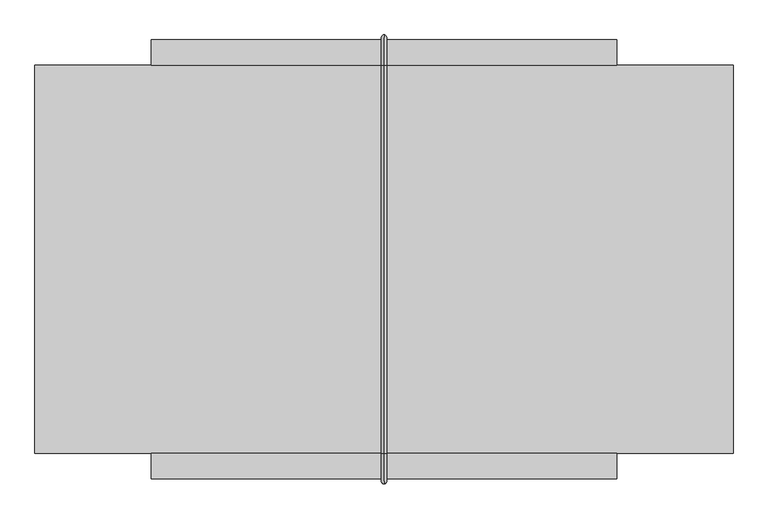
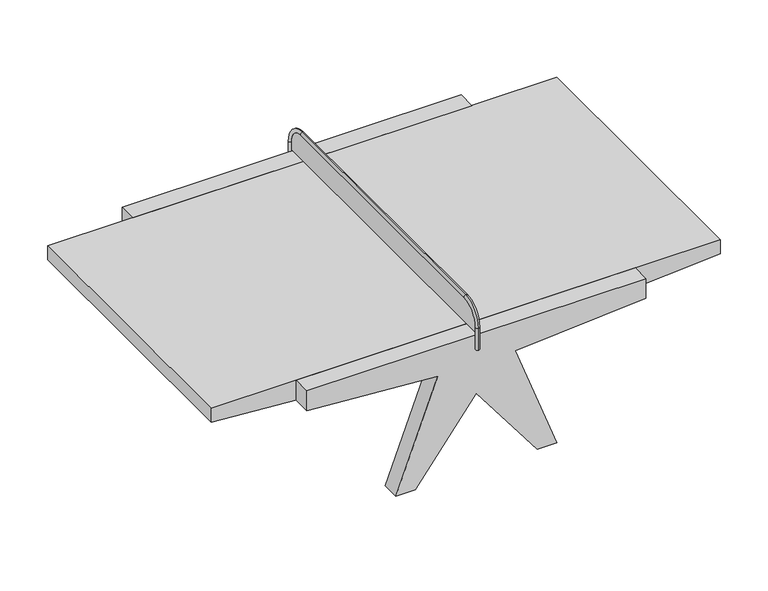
"""IFC4 building model written with IfcOpenShell, lengths in millimetres: furniture geometry, Mesa ping pong : Mesa ping pong."""

from ifc_helpers import new_model, si_unit, point, frame, frame_2d, origin, place, context, project, spatial, polyline, circle_curve, ellipse_curve, trimmed, segment, composite_curve, outline, extrude, source, transform, mapped, element, save
from ifc_brep_helpers import plane_surface, cylinder_surface, revolved_surface, advanced_brep


def furniture_a8138b70(model_context):
    return source(origin(), model_context, "Body", "SolidModel", [
        extrude(outline(composite_curve([segment(polyline([(-1630.0, 780.0), (-1630.0, 820.0)]), True, "CONTINUOUS"), segment(trimmed(circle_curve(frame_2d((-1530.0, 820.0)), 100.0), [point((-1630.0, 820.0))], [point((-1530.0, 920.0))], False, "CARTESIAN"), True, "CONTINUOUS"), segment(polyline([(-1530.0, 920.0), (0.0, 920.0)]), True, "CONTINUOUS"), segment(trimmed(circle_curve(frame_2d((0.0, 820.0)), 100.0), [point((0.0, 920.0))], [point((100.0, 820.0))], False, "CARTESIAN"), True, "CONTINUOUS"), segment(polyline([(100.0, 820.0), (100.0, 780.0), (-1630.0, 780.0)]), True, "CONTINUOUS")], self_intersect=False)), frame((43.7003264, 0.0, 0.0), z_axis=(1.0, 0.0, 0.0), x_axis=(0.0, 1.0, 0.0)), (0.0, 0.0, 1.0), 2.0),
        advanced_brep(
        [(44.7003264, 120.0, 690.0), (44.7003264, 100.0, 690.0), (44.7003264, 120.0, 820.0), (44.7003264, 100.0, 820.0), (44.7003264, 0.0, 920.0), (44.7003264, 0.0, 940.0), (44.7003264, -1530.0, 940.0), (44.7003264, -1530.0, 920.0), (44.7003264, -1630.0, 820.0), (44.7003264, -1650.0, 820.0), (44.7003264, -1650.0, 695.0), (44.7003264, -1630.0, 695.0)],
        [
            (0, 1, circle_curve(frame((44.7003264, 110.0, 690.0), z_axis=(0.0, 0.0, -1.0), x_axis=(0.0, -1.0, 0.0)), 10.0)),
            (1, 0, circle_curve(frame((44.7003264, 110.0, 690.0), z_axis=(0.0, 0.0, -1.0), x_axis=(0.0, -1.0, 0.0)), 10.0)),
            (0, 2),
            (2, 3, circle_curve(frame((44.7003264, 110.0, 820.0), z_axis=(0.0, 0.0, -1.0), x_axis=(0.0, -1.0, 0.0)), 10.0)),
            (3, 1),
            (3, 2, circle_curve(frame((44.7003264, 110.0, 820.0), z_axis=(0.0, 0.0, -1.0), x_axis=(0.0, -1.0, 0.0)), 10.0)),
            (4, 3, circle_curve(frame((44.7003264, 0.0, 820.0), z_axis=(-1.0, 0.0, 0.0), x_axis=(0.0, 1.0, 0.0)), 100.0)),
            (2, 5, circle_curve(frame((44.7003264, 0.0, 820.0), z_axis=(1.0, 0.0, 0.0), x_axis=(0.0, 1.0, 0.0)), 120.0)),
            (5, 4, circle_curve(frame((44.7003264, 0.0, 930.0), z_axis=(0.0, 1.0, 0.0), x_axis=(0.0, 0.0, -1.0)), 10.0)),
            (4, 5, circle_curve(frame((44.7003264, 0.0, 930.0), z_axis=(0.0, 1.0, 0.0), x_axis=(0.0, 0.0, -1.0)), 10.0)),
            (5, 6),
            (6, 7, circle_curve(frame((44.7003264, -1530.0, 930.0), z_axis=(0.0, 1.0, 0.0), x_axis=(0.0, 0.0, -1.0)), 10.0)),
            (7, 4),
            (7, 6, circle_curve(frame((44.7003264, -1530.0, 930.0), z_axis=(0.0, 1.0, 0.0), x_axis=(0.0, 0.0, -1.0)), 10.0)),
            (8, 7, circle_curve(frame((44.7003264, -1530.0, 820.0), z_axis=(-1.0, 0.0, 0.0), x_axis=(0.0, 0.0, 1.0)), 100.0)),
            (6, 9, circle_curve(frame((44.7003264, -1530.0, 820.0), z_axis=(1.0, 0.0, 0.0), x_axis=(0.0, 0.0, 1.0)), 120.0)),
            (9, 8, circle_curve(frame((44.7003264, -1640.0, 820.0), z_axis=(0.0, 0.0, 1.0), x_axis=(0.0, 1.0, 0.0)), 10.0)),
            (8, 9, circle_curve(frame((44.7003264, -1640.0, 820.0), z_axis=(0.0, 0.0, 1.0), x_axis=(0.0, 1.0, 0.0)), 10.0)),
            (10, 11, circle_curve(frame((44.7003264, -1640.0, 695.0), z_axis=(0.0, 0.0, -1.0), x_axis=(0.0, 1.0, 0.0)), 10.0)),
            (11, 10, circle_curve(frame((44.7003264, -1640.0, 695.0), z_axis=(0.0, 0.0, -1.0), x_axis=(0.0, 1.0, 0.0)), 10.0)),
            (9, 10),
            (11, 8),
        ],
        [
            plane_surface(frame((44.7003264, 100.0, 690.0), z_axis=(0.0, 0.0, -1.0), x_axis=(1.0, 0.0, 0.0))),
            cylinder_surface(frame((44.7003264, 110.0, 690.0), z_axis=(0.0, 0.0, -1.0), x_axis=(0.0, -1.0, 0.0)), 10.0),
            revolved_surface(trimmed(ellipse_curve(frame((44.7003264, 110.0, 820.0), z_axis=(0.0, 0.0, -1.0), x_axis=(0.0, -1.0, 0.0)), 10.0, 10.0), [point((44.7003264, 120.0, 820.0))], [point((44.7003264, 100.0, 820.0))], True, "CARTESIAN"), (44.7003264, 0.0, 820.0), (1.0, 0.0, 0.0)),
            revolved_surface(trimmed(ellipse_curve(frame((44.7003264, 110.0, 820.0), z_axis=(0.0, 0.0, -1.0), x_axis=(0.0, -1.0, 0.0)), 10.0, 10.0), [point((44.7003264, 100.0, 820.0))], [point((44.7003264, 120.0, 820.0))], True, "CARTESIAN"), (44.7003264, 0.0, 820.0), (1.0, 0.0, 0.0)),
            cylinder_surface(frame((44.7003264, 0.0, 930.0), z_axis=(0.0, 1.0, 0.0), x_axis=(0.0, 0.0, -1.0)), 10.0),
            revolved_surface(trimmed(ellipse_curve(frame((44.7003264, -1530.0, 930.0), z_axis=(0.0, 1.0, 0.0), x_axis=(0.0, 0.0, -1.0)), 10.0, 10.0), [point((44.7003264, -1530.0, 940.0))], [point((44.7003264, -1530.0, 920.0))], True, "CARTESIAN"), (44.7003264, -1530.0, 820.0), (1.0, 0.0, 0.0)),
            revolved_surface(trimmed(ellipse_curve(frame((44.7003264, -1530.0, 930.0), z_axis=(0.0, 1.0, 0.0), x_axis=(0.0, 0.0, -1.0)), 10.0, 10.0), [point((44.7003264, -1530.0, 920.0))], [point((44.7003264, -1530.0, 940.0))], True, "CARTESIAN"), (44.7003264, -1530.0, 820.0), (1.0, 0.0, 0.0)),
            plane_surface(frame((44.7003264, -1630.0, 695.0), z_axis=(0.0, 0.0, -1.0), x_axis=(1.0, 0.0, 0.0))),
            cylinder_surface(frame((44.7003264, -1640.0, 820.0), z_axis=(0.0, 0.0, 1.0), x_axis=(0.0, 1.0, 0.0)), 10.0),
        ],
        [
            (0, [[1, 2]]),
            (1, [[-1, 3, 4, 5]]),
            (1, [[-2, -5, 6, -3]]),
            (2, [[7, -4, 8, 9]]),
            (3, [[-8, -6, -7, 10]]),
            (4, [[-9, 11, 12, 13]]),
            (4, [[-10, -13, 14, -11]]),
            (5, [[15, -12, 16, 17]]),
            (6, [[-16, -14, -15, 18]]),
            (7, [[19, 20]]),
            (8, [[-17, 21, -20, 22]]),
            (8, [[-18, -22, -19, -21]]),
        ],
    ),
        extrude(outline(polyline([(770.0, 960.7003264), (770.0, -871.2996736), (657.1692967, -871.2996736), (606.6, -164.2996736), (0.0, -390.2996736), (0.0, -285.0996736), (435.0, 44.7003264), (0.0, 374.5003264), (0.0, 479.7003264), (606.6, 253.7003264), (657.1692967, 960.7003264), (770.0, 960.7003264)])), frame((0.0, -1630.0, 0.0), z_axis=(0.0, 1.0, 0.0), x_axis=(0.0, 0.0, 1.0)), (0.0, 0.0, 1.0), 100.0),
        extrude(outline(polyline([(770.0, 960.7003264), (770.0, -871.2996736), (657.1692967, -871.2996736), (606.6, -164.2996736), (0.0, -390.2996736), (0.0, -285.0996736), (435.0, 44.7003264), (0.0, 374.5003264), (0.0, 479.7003264), (606.6, 253.7003264), (657.1692967, 960.7003264), (770.0, 960.7003264)])), frame((0.0, 0.0, 0.0), z_axis=(0.0, 1.0, 0.0), x_axis=(0.0, 0.0, 1.0)), (0.0, 0.0, 1.0), 100.0),
        extrude(outline(polyline([(770.0, 1419.7003264), (770.0, -1330.2996736), (690.0, -1330.2996736), (606.6, -164.2996736), (606.6, 253.7003264), (690.0, 1419.7003264), (770.0, 1419.7003264)])), frame((0.0, -1530.0, 0.0), z_axis=(0.0, 1.0, 0.0), x_axis=(0.0, 0.0, 1.0)), (0.0, 0.0, 1.0), 1530.0),
    ])


if __name__ == "__main__":
    model = new_model("IFC4")
    model_context = context("Model", 3, world=origin())
    ifc_project = project(units=[si_unit("LENGTHUNIT", "METRE", prefix="MILLI")], contexts=[model_context])
    site = spatial("IfcSite", under=ifc_project)
    building = spatial("IfcBuilding", under=site)
    placement = place(None, origin())
    furniture_shape = furniture_a8138b70(model_context)
    element("IfcFurniture", 1, ObjectType="Mesa ping pong : Mesa ping pong", at=placement, inside=building, context=model_context, shape_type="MappedRepresentation", body=[
        mapped(furniture_shape, transform((0.0, 0.0, 0.0), x_axis=(1.0, 0.0, 0.0), y_axis=(0.0, 1.0, 0.0), z_axis=(0.0, 0.0, 1.0))),
    ])
    save(model, "model.ifc")
